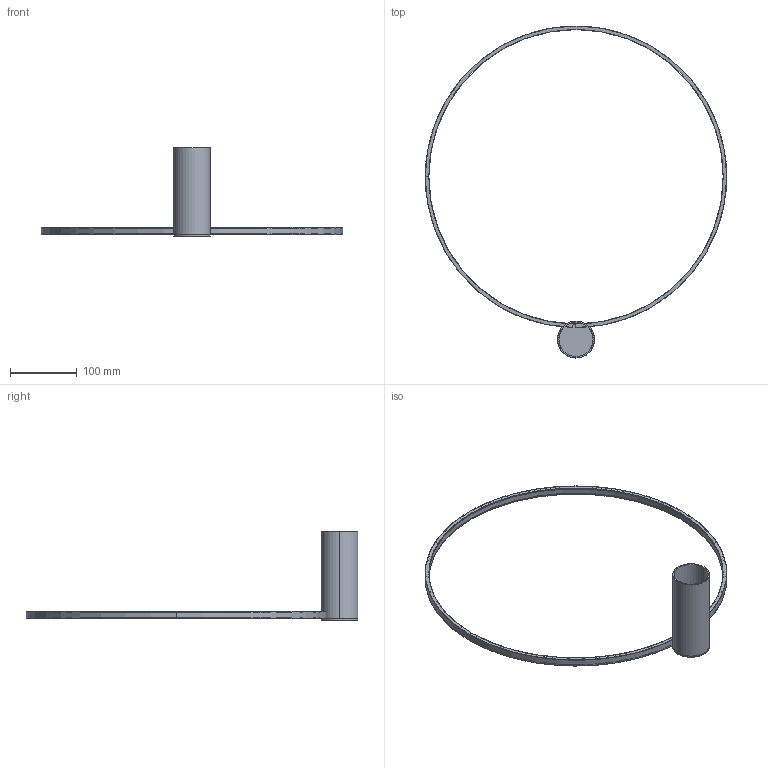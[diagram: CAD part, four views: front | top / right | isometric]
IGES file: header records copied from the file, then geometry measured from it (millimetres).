
Start section: SolidWorks IGES file using analytic representation for surfaces
Global section: file name: C:\Users\anna.bielnik\Desktop\modele 3D tymczasowe\CIRCOLO\CIRCOLO-LED-S-10928-10930\CIRCOLO-LED-S-10928-10930 PM\CIRCOLO-LED-S-10928-10930 ren wh.IGS; native system: SolidWorks 2023; preprocessor: SolidWorks 2023; author: anna.bielnik; date: 230621.143405; units: millimetre
Bounding box: 450 x 495.56 x 132 mm (x, y, z)
Surface area: 130864.6 mm2 (no closed solid volume)
Topology: 0 solids, 0 shells, 38 faces, 1272 edges, 1272 vertices
Faces by surface type: revolution 22, bspline 16
